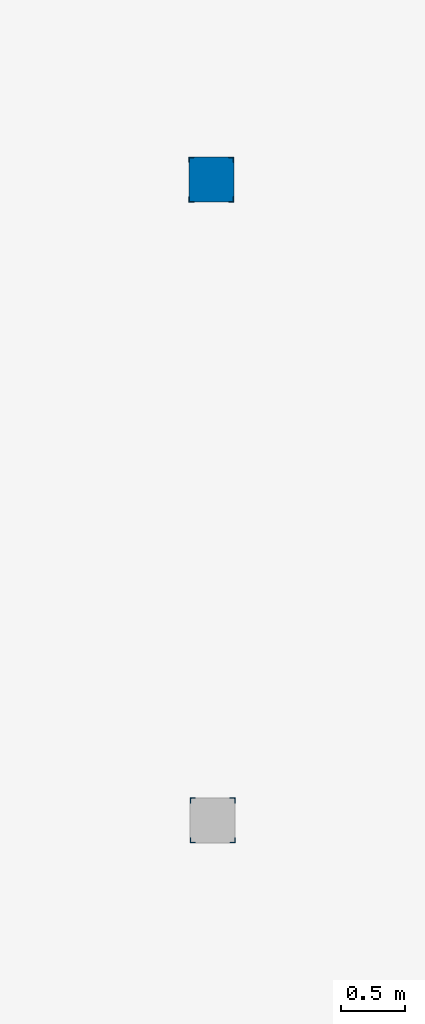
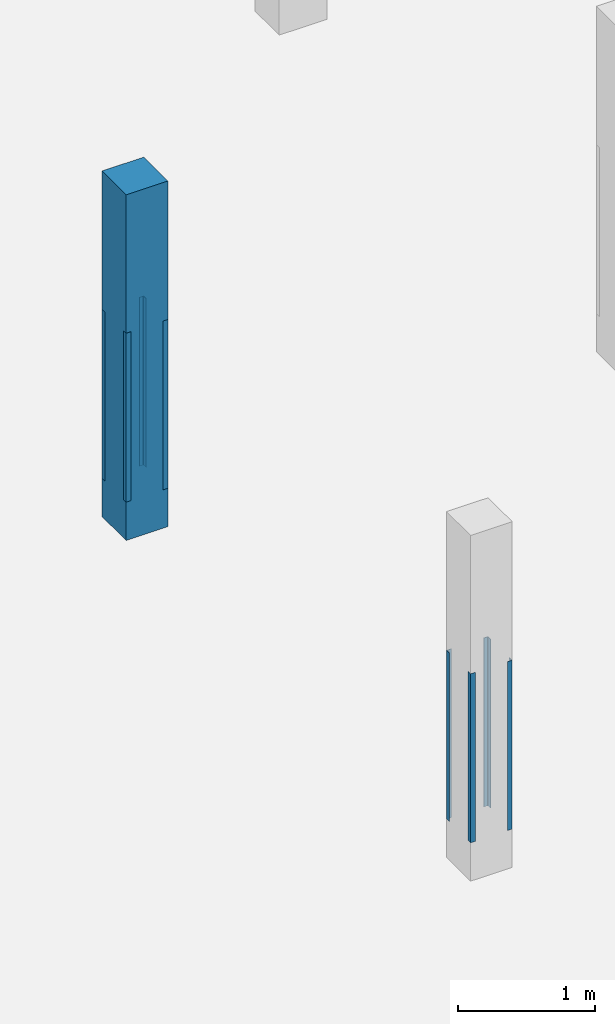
# One storey, part 17 of 42: 9 columns.
"""IFC2X3 building model written with IfcOpenShell, lengths in millimetres."""

from ifc_helpers import new_model, entity, si_unit, converted_unit, derived_unit, direction, frame, frame_2d, origin, origin_2d_with_axis, place, context, subcontext, project, spatial, polyline, circle_curve, parameter, trimmed, segment, composite_curve, rectangle, outline, extrude, source, transform, mapped, material, type_object, type_shapes, element, save


model = new_model("IFC2X3")

# Units and contexts
model_context = context("Model", 3, precision=0.01, world=origin(), true_north=direction((6.12303176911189e-17, 1.0)))
body_context = subcontext(model_context, "Body", "Model", "MODEL_VIEW")
ifc_project = project(units=[si_unit("LENGTHUNIT", "METRE", prefix="MILLI"), si_unit("AREAUNIT", "SQUARE_METRE", prefix="MILLI"), si_unit("VOLUMEUNIT", "CUBIC_METRE"), converted_unit("PLANEANGLEUNIT", "DEGREE", entity("IfcRatioMeasure", 0.0174532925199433), si_unit("PLANEANGLEUNIT", "RADIAN"), dimensions=[0, 0, 0, 0, 0, 0, 0]), si_unit("MASSUNIT", "GRAM", prefix="KILO"), derived_unit("MASSDENSITYUNIT", [(si_unit("MASSUNIT", "GRAM", prefix="KILO"), 1), (si_unit("LENGTHUNIT", "METRE"), -3)]), derived_unit("MOMENTOFINERTIAUNIT", [(si_unit("LENGTHUNIT", "METRE"), 4)]), si_unit("TIMEUNIT", "SECOND"), si_unit("FREQUENCYUNIT", "HERTZ"), si_unit("THERMODYNAMICTEMPERATUREUNIT", "DEGREE_CELSIUS"), derived_unit("THERMALTRANSMITTANCEUNIT", [(si_unit("MASSUNIT", "GRAM", prefix="KILO"), 1), (si_unit("THERMODYNAMICTEMPERATUREUNIT", "KELVIN"), -1), (si_unit("TIMEUNIT", "SECOND"), -3)]), derived_unit("VOLUMETRICFLOWRATEUNIT", [(si_unit("LENGTHUNIT", "METRE"), 3), (si_unit("TIMEUNIT", "SECOND"), -1)]), si_unit("ELECTRICCURRENTUNIT", "AMPERE"), si_unit("ELECTRICVOLTAGEUNIT", "VOLT"), si_unit("POWERUNIT", "WATT"), si_unit("FORCEUNIT", "NEWTON", prefix="KILO"), si_unit("ILLUMINANCEUNIT", "LUX"), si_unit("LUMINOUSFLUXUNIT", "LUMEN"), si_unit("LUMINOUSINTENSITYUNIT", "CANDELA"), derived_unit("USERDEFINED", [(si_unit("MASSUNIT", "GRAM", prefix="KILO"), -1), (si_unit("LENGTHUNIT", "METRE"), -2), (si_unit("TIMEUNIT", "SECOND"), 3), (si_unit("LUMINOUSFLUXUNIT", "LUMEN"), 1)]), derived_unit("LINEARVELOCITYUNIT", [(si_unit("LENGTHUNIT", "METRE"), 1), (si_unit("TIMEUNIT", "SECOND"), -1)]), si_unit("PRESSUREUNIT", "PASCAL"), derived_unit("USERDEFINED", [(si_unit("LENGTHUNIT", "METRE"), -2), (si_unit("MASSUNIT", "GRAM", prefix="KILO"), 1), (si_unit("TIMEUNIT", "SECOND"), -2)]), derived_unit("LINEARFORCEUNIT", [(si_unit("MASSUNIT", "GRAM", prefix="KILO"), 1), (si_unit("LENGTHUNIT", "METRE"), 1), (si_unit("TIMEUNIT", "SECOND"), -2), (si_unit("LENGTHUNIT", "METRE"), -1)]), derived_unit("PLANARFORCEUNIT", [(si_unit("MASSUNIT", "GRAM", prefix="KILO"), 1), (si_unit("LENGTHUNIT", "METRE"), 1), (si_unit("TIMEUNIT", "SECOND"), -2), (si_unit("LENGTHUNIT", "METRE"), -2)])], contexts=[model_context])

# Site, building, storey
site_placement = place(None, origin())
site = spatial("IfcSite", under=ifc_project, at=site_placement, Name="Theater aan de Parade", CompositionType="ELEMENT")
building_placement = place(site_placement, origin())
building = spatial("IfcBuilding", under=site, at=building_placement, Name="Theater aan de Parade", CompositionType="ELEMENT")
storey_placement = place(building_placement, frame((0.0, 0.0, -3300.0)))
storey = spatial("IfcBuildingStorey", under=building, at=storey_placement, Name="-1 kelder", CompositionType="ELEMENT", Elevation=-3300.0)

# Columns
ifc_material_1 = material(Name="00_PBT_MAT_beton t.p.g.")
column_type_1 = type_object("IfcColumnType", Name="28_PBT_SC_beton_rechthoekig:350x350_bestaand", PredefinedType="COLUMN", material=ifc_material_1)
shared_shape_1 = source(origin(), body_context, "Body", "SweptSolid", [
    extrude(rectangle(XDim=350.000000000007, YDim=349.99999999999, at=origin_2d_with_axis()), frame((78955.0, 39965.0, -2640.0), z_axis=(0.0, 0.0, 1.0), x_axis=(0.0, -1.0, 0.0)), (0.0, 0.0, 1.0), 3070.0000000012),
])
type_shapes(column_type_1, [shared_shape_1])
column_1_placement = place(storey_placement, frame((0.0, 0.0, 3300.0)))
element("IfcColumn", 1, at=column_1_placement, inside=storey, type_object=column_type_1, material=ifc_material_1, Name="28_PBT_SC_beton_rechthoekig:350x350_bestaand", ObjectType="28_PBT_SC_beton_rechthoekig:350x350_bestaand", context=body_context, shape_type="MappedRepresentation", body=[
    mapped(shared_shape_1, transform((0.0, 0.0, 0.0), scale=1.0)),
])
ifc_material_2 = material(Name="00_PBT_MAT_staal")
column_type_2 = type_object("IfcColumnType", Name="28_PBT_SC_staal_L-profiel:L40x40x4_bestaand", PredefinedType="COLUMN", material=ifc_material_2)
shared_shape_2 = source(origin(), body_context, "Body", "SweptSolid", [
    extrude(outline(composite_curve([segment(polyline([(-15.1111111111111, -15.1111111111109), (24.8888888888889, -15.1111111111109)]), True, "CONTINUOUS"), segment(polyline([(24.8888888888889, -15.1111111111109), (24.8888888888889, -14.1111111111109)]), True, "CONTINUOUS"), segment(trimmed(circle_curve(frame_2d((21.8888888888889, -14.1111111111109), x_axis=(1.0, 0.0)), 3.0), [parameter(0.0)], [parameter(90.0000000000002)], True, "PARAMETER"), True, "CONTINUOUS"), segment(polyline([(21.8888888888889, -11.1111111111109), (-5.11111111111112, -11.1111111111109)]), True, "CONTINUOUS"), segment(trimmed(circle_curve(frame_2d((-5.11111111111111, -5.11111111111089), x_axis=(0.0, -1.0)), 6.0), [parameter(270.0)], [parameter(0.0)], True, "PARAMETER"), False, "CONTINUOUS"), segment(polyline([(-11.1111111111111, -5.11111111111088), (-11.1111111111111, 21.8888888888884)]), True, "CONTINUOUS"), segment(trimmed(circle_curve(frame_2d((-14.1111111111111, 21.8888888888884), x_axis=(1.0, 0.0)), 3.0), [parameter(0.0)], [parameter(90.0000000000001)], True, "PARAMETER"), True, "CONTINUOUS"), segment(polyline([(-14.1111111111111, 24.8888888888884), (-15.1111111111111, 24.8888888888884)]), True, "CONTINUOUS"), segment(polyline([(-15.1111111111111, 24.8888888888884), (-15.1111111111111, -15.1111111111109)]), True, "CONTINUOUS")], self_intersect=False)), frame((3.91111111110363, -3.9111111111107, -2300.0), z_axis=(0.0, 0.0, 1.0), x_axis=(0.0, -1.0, 0.0)), (0.0, 0.0, 1.0), 1500.0),
])
type_shapes(column_type_2, [shared_shape_2])
column_2_placement = place(storey_placement, frame((78791.2000000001, 40128.7999999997, 3300.0)))
element("IfcColumn", 2, at=column_2_placement, inside=storey, type_object=column_type_2, material=ifc_material_2, Name="28_PBT_SC_staal_L-profiel:L40x40x4_bestaand", ObjectType="28_PBT_SC_staal_L-profiel:L40x40x4_bestaand", context=body_context, shape_type="MappedRepresentation", body=[
    mapped(shared_shape_2, transform((0.0, 0.0, 0.0), scale=1.0)),
])
column_3_placement = place(storey_placement, frame((79118.7999999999, 39801.1999999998, 3300.0), z_axis=(0.0, 0.0, 1.0), x_axis=(-1.0, 0.0, 0.0)))
element("IfcColumn", 3, at=column_3_placement, inside=storey, type_object=column_type_2, material=ifc_material_2, Name="28_PBT_SC_staal_L-profiel:L40x40x4_bestaand", ObjectType="28_PBT_SC_staal_L-profiel:L40x40x4_bestaand", context=body_context, shape_type="MappedRepresentation", body=[
    mapped(shared_shape_2, transform((0.0, 0.0, 0.0), scale=1.0)),
])
column_4_placement = place(storey_placement, frame((78801.2000000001, 35133.7999999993, 3300.0)))
element("IfcColumn", 4, at=column_4_placement, inside=storey, type_object=column_type_2, material=ifc_material_2, Name="28_PBT_SC_staal_L-profiel:L40x40x4_bestaand", ObjectType="28_PBT_SC_staal_L-profiel:L40x40x4_bestaand", context=body_context, shape_type="MappedRepresentation", body=[
    mapped(shared_shape_2, transform((0.0, 0.0, 0.0), scale=1.0)),
])
column_5_placement = place(storey_placement, frame((79128.7999999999, 34806.1999999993, 3300.0), z_axis=(0.0, 0.0, 1.0), x_axis=(-1.0, 0.0, 0.0)))
element("IfcColumn", 5, at=column_5_placement, inside=storey, type_object=column_type_2, material=ifc_material_2, Name="28_PBT_SC_staal_L-profiel:L40x40x4_bestaand", ObjectType="28_PBT_SC_staal_L-profiel:L40x40x4_bestaand", context=body_context, shape_type="MappedRepresentation", body=[
    mapped(shared_shape_2, transform((0.0, 0.0, 0.0), scale=1.0)),
])
column_type_3 = type_object("IfcColumnType", Name="28_PBT_SC_staal_L-profiel:L40x40x4_bestaand", PredefinedType="COLUMN", material=ifc_material_2)
shared_shape_3 = source(origin(), body_context, "Body", "SweptSolid", [
    extrude(outline(composite_curve([segment(polyline([(-24.8888888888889, -15.1111111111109), (15.1111111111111, -15.1111111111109)]), True, "CONTINUOUS"), segment(polyline([(15.1111111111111, -15.1111111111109), (15.1111111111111, 24.8888888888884)]), True, "CONTINUOUS"), segment(polyline([(15.1111111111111, 24.8888888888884), (14.1111111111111, 24.8888888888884)]), True, "CONTINUOUS"), segment(trimmed(circle_curve(frame_2d((14.1111111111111, 21.8888888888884), x_axis=(0.0, 1.0)), 3.0), [parameter(0.0)], [parameter(89.9999999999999)], True, "PARAMETER"), True, "CONTINUOUS"), segment(polyline([(11.1111111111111, 21.8888888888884), (11.1111111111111, -5.11111111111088)]), True, "CONTINUOUS"), segment(trimmed(circle_curve(frame_2d((5.1111111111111, -5.1111111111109), x_axis=(1.0, 0.0)), 6.0), [parameter(270.0)], [parameter(0.0)], True, "PARAMETER"), False, "CONTINUOUS"), segment(polyline([(5.11111111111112, -11.1111111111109), (-21.8888888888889, -11.1111111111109)]), True, "CONTINUOUS"), segment(trimmed(circle_curve(frame_2d((-21.8888888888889, -14.1111111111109), x_axis=(0.0, 1.0)), 3.0), [parameter(0.0)], [parameter(90.0000000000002)], True, "PARAMETER"), True, "CONTINUOUS"), segment(polyline([(-24.8888888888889, -14.1111111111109), (-24.8888888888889, -15.1111111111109)]), True, "CONTINUOUS")], self_intersect=False)), frame((3.91111111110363, 3.91111111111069, -2300.0), z_axis=(0.0, 0.0, 1.0), x_axis=(0.0, -1.0, 0.0)), (0.0, 0.0, 1.0), 1500.0),
])
type_shapes(column_type_3, [shared_shape_3])
column_6_placement = place(storey_placement, frame((79118.7999999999, 40128.7999999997, 3300.0), z_axis=(0.0, 0.0, 1.0), x_axis=(-1.0, 0.0, 0.0)))
element("IfcColumn", 6, at=column_6_placement, inside=storey, type_object=column_type_3, material=ifc_material_2, Name="28_PBT_SC_staal_L-profiel:L40x40x4_bestaand", ObjectType="28_PBT_SC_staal_L-profiel:L40x40x4_bestaand", context=body_context, shape_type="MappedRepresentation", body=[
    mapped(shared_shape_3, transform((0.0, 0.0, 0.0), scale=1.0)),
])
column_7_placement = place(storey_placement, frame((78791.2000000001, 39801.1999999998, 3300.0)))
element("IfcColumn", 7, at=column_7_placement, inside=storey, type_object=column_type_3, material=ifc_material_2, Name="28_PBT_SC_staal_L-profiel:L40x40x4_bestaand", ObjectType="28_PBT_SC_staal_L-profiel:L40x40x4_bestaand", context=body_context, shape_type="MappedRepresentation", body=[
    mapped(shared_shape_3, transform((0.0, 0.0, 0.0), scale=1.0)),
])
column_8_placement = place(storey_placement, frame((79128.7999999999, 35133.7999999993, 3300.0), z_axis=(0.0, 0.0, 1.0), x_axis=(-1.0, 0.0, 0.0)))
element("IfcColumn", 8, at=column_8_placement, inside=storey, type_object=column_type_3, material=ifc_material_2, Name="28_PBT_SC_staal_L-profiel:L40x40x4_bestaand", ObjectType="28_PBT_SC_staal_L-profiel:L40x40x4_bestaand", context=body_context, shape_type="MappedRepresentation", body=[
    mapped(shared_shape_3, transform((0.0, 0.0, 0.0), scale=1.0)),
])
column_9_placement = place(storey_placement, frame((78801.2000000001, 34806.1999999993, 3300.0)))
element("IfcColumn", 9, at=column_9_placement, inside=storey, type_object=column_type_3, material=ifc_material_2, Name="28_PBT_SC_staal_L-profiel:L40x40x4_bestaand", ObjectType="28_PBT_SC_staal_L-profiel:L40x40x4_bestaand", context=body_context, shape_type="MappedRepresentation", body=[
    mapped(shared_shape_3, transform((0.0, 0.0, 0.0), scale=1.0)),
])

save(model, "model.ifc")
